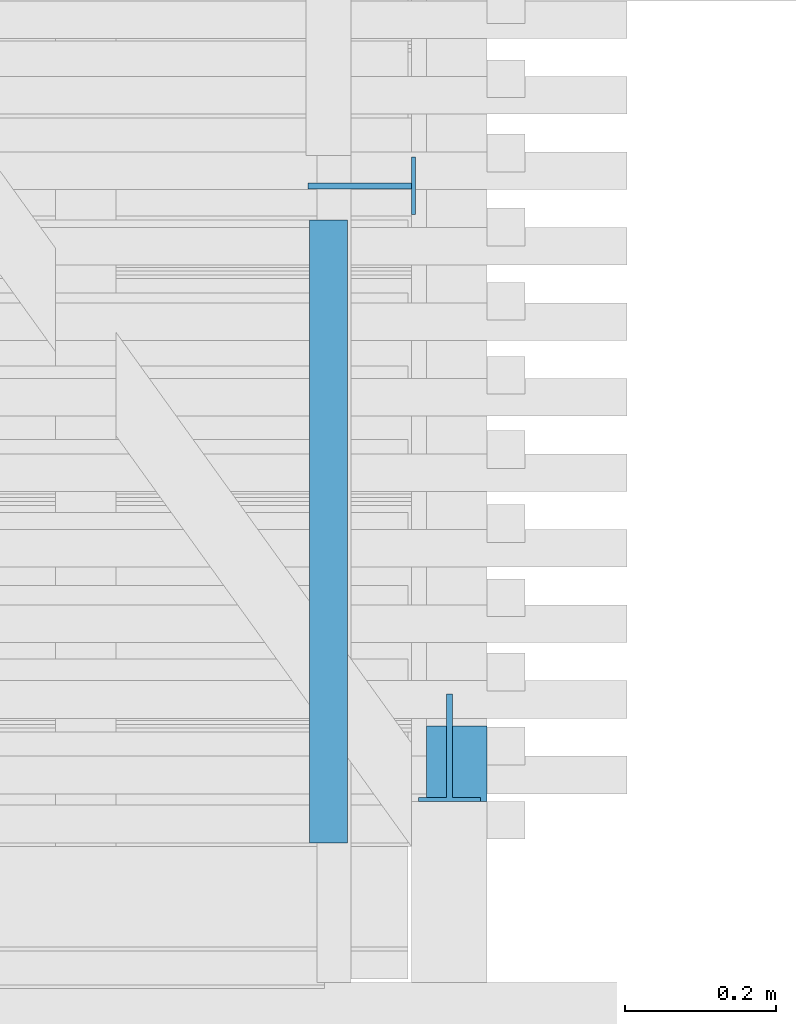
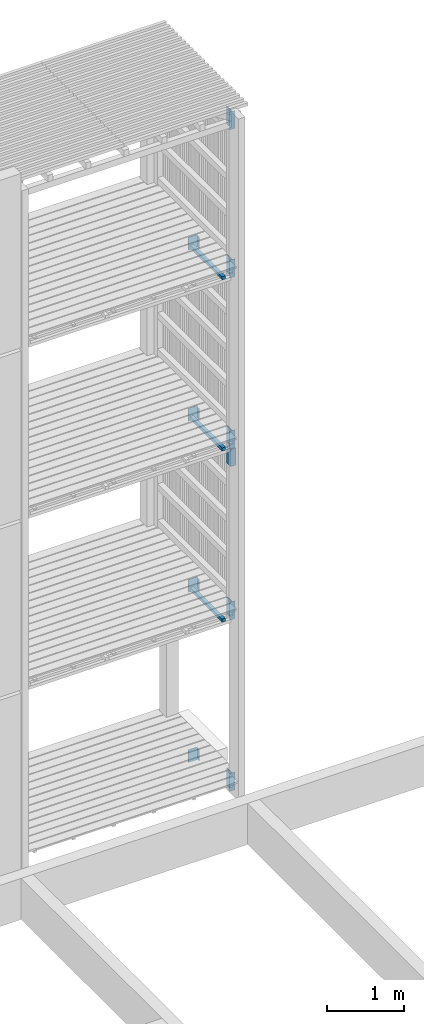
# One storey, part 176 of 182: 13 beams.
"""IFC2X3 building model written with IfcOpenShell, lengths in metres."""

import ifcopenshell
import ifcopenshell.guid

model = None  # the IFC model being written
_history = None  # IfcOwnerHistory: only IFC2X3 demands one
_inside = {}  # id of a spatial element -> (the spatial element, [elements in it])
_under = {}  # id of a project, library or spatial element -> (it, [spatial elements below it])
_declared = {}  # id of a project -> (the project, [libraries it declares])
_typed = {}  # id of a type object -> (the type object, [elements of that type])
_made_of = {}  # id of a material, layer set ... -> (it, [elements and type objects made of it])


def new_model(schema):
    """Start an empty IFC model of exactly this schema.

    Asked for "IFC4X3", IfcOpenShell would pick the latest addendum, in which some entities
    have other attributes; the version numbers below select the first issue.
    IFC2X3 requires an IfcOwnerHistory on every rooted entity: one is made here for all.
    """
    global model, _history
    if schema == "IFC4X3":
        model = ifcopenshell.file(schema_version=(4, 3, 0, 0))
    else:
        model = ifcopenshell.file(schema=schema)
    _inside.clear()
    _under.clear()
    _declared.clear()
    _typed.clear()
    _made_of.clear()
    _history = None
    if model.schema == "IFC2X3":
        org = make("IfcOrganization", Name="unknown")
        user = make(
            "IfcPersonAndOrganization",
            ThePerson=make("IfcPerson", FamilyName="unknown"),
            TheOrganization=org,
        )
        app = make(
            "IfcApplication",
            ApplicationDeveloper=org,
            Version="unknown",
            ApplicationFullName="unknown",
            ApplicationIdentifier="unknown",
        )
        _history = make(
            "IfcOwnerHistory",
            OwningUser=user,
            OwningApplication=app,
            ChangeAction="ADDED",
            CreationDate=0,
        )
    return model


def make(cls, **values):
    """One entity of the class cls with the attributes given. An attribute that is None is left unset."""
    return model.create_entity(
        cls, **{name: value for name, value in values.items() if value is not None}
    )


def rooted(cls, **values):
    """An entity with a GlobalId (a new one), such as an element, a storey or a relation."""
    return make(cls, GlobalId=ifcopenshell.guid.new(), OwnerHistory=_history, **values)


def si_unit(unit_type, name, prefix=None):
    """IfcSIUnit, for example si_unit("LENGTHUNIT", "METRE", prefix="MILLI")."""
    return make("IfcSIUnit", UnitType=unit_type, Prefix=prefix, Name=name)


def assignment(units):
    """IfcUnitAssignment: the units of a project."""
    return None if units is None else make("IfcUnitAssignment", Units=units)


def point(xyz):
    """IfcCartesianPoint."""
    return None if xyz is None else make("IfcCartesianPoint", Coordinates=xyz)


def direction(xyz):
    """IfcDirection."""
    return None if xyz is None else make("IfcDirection", DirectionRatios=xyz)


def frame(location, z_axis=None, x_axis=None):
    """IfcAxis2Placement3D, a coordinate frame: its origin and axes. An axis left out is left unset."""
    return make(
        "IfcAxis2Placement3D",
        Location=point(location),
        Axis=direction(z_axis),
        RefDirection=direction(x_axis),
    )


def origin():
    """The frame at (0, 0, 0) with its axes left unset."""
    return frame((0.0, 0.0, 0.0))


def place(relative_to, where):
    """IfcLocalPlacement: puts the frame where relative to a parent placement (None: the world)."""
    return make(
        "IfcLocalPlacement", PlacementRelTo=relative_to, RelativePlacement=where
    )


def context(
    kind, dimensions, precision=None, world=None, true_north=None, identifier=None
):
    """IfcGeometricRepresentationContext, for example the 3D "Model" context."""
    return make(
        "IfcGeometricRepresentationContext",
        ContextIdentifier=identifier,
        ContextType=kind,
        CoordinateSpaceDimension=dimensions,
        Precision=precision,
        WorldCoordinateSystem=world,
        TrueNorth=true_north,
    )


def project(units=None, contexts=None):
    """IfcProject with its units and contexts."""
    return rooted(
        "IfcProject",
        Name="project",
        RepresentationContexts=contexts,
        UnitsInContext=assignment(units),
    )


def spatial(cls, under=None, at=None, **own):
    """A site, building, storey or space (cls), placed at a placement, below another one or the project."""
    s = rooted(cls, ObjectPlacement=at, **own)
    if under is not None:
        _under.setdefault(under.id(), (under, []))[1].append(s)
    return s


def faces_of(points, faces, orient=None, outer=None):
    """IfcFace entities. A face is a list of loops; a loop is a list of indices into points, from 0.

    orient and outer hold one flag for each loop. By default every Orientation is true, the
    first loop of a face is its IfcFaceOuterBound and the others are IfcFaceBound.
    """
    made = []
    for i, loops in enumerate(faces):
        bounds = []
        for j, loop in enumerate(loops):
            is_outer = j == 0 if outer is None else outer[i][j]
            bounds.append(
                make(
                    "IfcFaceOuterBound" if is_outer else "IfcFaceBound",
                    Bound=make("IfcPolyLoop", Polygon=[points[k] for k in loop]),
                    Orientation=True if orient is None else orient[i][j],
                )
            )
        made.append(make("IfcFace", Bounds=bounds))
    return made


def faceted_brep(points, faces, orient=None, outer=None, voids=None):
    """IfcFacetedBrep: a solid bounded by flat faces; with voids (closed shells), ...WithVoids."""
    shared = [point(p) for p in points]
    hull = make("IfcClosedShell", CfsFaces=faces_of(shared, faces, orient, outer))
    if voids is None:
        return make("IfcFacetedBrep", Outer=hull)
    return make(
        "IfcFacetedBrepWithVoids",
        Outer=hull,
        Voids=[
            make(cls, CfsFaces=faces_of(shared, fs, o, b)) for cls, fs, o, b in voids
        ],
    )


def shape(context_of_items, identifier, shape_type, items):
    """IfcShapeRepresentation: the items that make up one representation, for example the "Body"."""
    return make(
        "IfcShapeRepresentation",
        ContextOfItems=context_of_items,
        RepresentationIdentifier=identifier,
        RepresentationType=shape_type,
        Items=items,
    )


def made_of(thing, what):
    """Note that an element or type object is made of a material, layer set ...; save() writes the relation."""
    if what is not None:
        _made_of.setdefault(what.id(), (what, []))[1].append(thing)
    return thing


def element(
    cls,
    number,
    at=None,
    inside=None,
    cuts=None,
    type_object=None,
    material=None,
    context=None,
    identifier="Body",
    shape_type=None,
    held_by="IfcProductDefinitionShape",
    body=None,
    shapes=None,
    **own,
):
    """One element of the class cls, such as IfcWall. Its Tag is "e" and its number.

    at: its placement. inside: the storey or other place that contains it. cuts: it is an
    opening in that element (IfcRelVoidsElement). A single representation is given by context,
    identifier, shape_type and body (its items); several are given by shapes. held_by: the class
    of the entity that holds the representations. save() writes the other relations.
    """
    e = rooted(cls, Tag="e%d" % number, ObjectPlacement=at, **own)
    if body is not None:
        shapes = [shape(context, identifier, shape_type, body)]
    if shapes is not None:
        e.Representation = make(held_by, Representations=shapes)
    if inside is not None:
        _inside.setdefault(inside.id(), (inside, []))[1].append(e)
    if cuts is not None:
        rooted(
            "IfcRelVoidsElement", RelatingBuildingElement=cuts, RelatedOpeningElement=e
        )
    if type_object is not None:
        _typed.setdefault(type_object.id(), (type_object, []))[1].append(e)
    return made_of(e, material)


def aggregate(whole, parts):
    """IfcRelAggregates: a whole, such as a stair, and the parts it consists of."""
    return rooted("IfcRelAggregates", RelatingObject=whole, RelatedObjects=parts)


def save(model, path):
    """Write the relations noted so far, then the file.

    IfcRelAggregates (storeys below a building ...), IfcRelContainedInSpatialStructure (elements
    in a storey), IfcRelDefinesByType, IfcRelAssociatesMaterial and IfcRelDeclares: one each for
    every whole, place, type object, material and project.
    """
    for whole, parts in _under.values():
        aggregate(whole, parts)
    for where, things in _inside.values():
        rooted(
            "IfcRelContainedInSpatialStructure",
            RelatedElements=things,
            RelatingStructure=where,
        )
    for kind, things in _typed.values():
        rooted("IfcRelDefinesByType", RelatedObjects=things, RelatingType=kind)
    for what, things in _made_of.values():
        rooted("IfcRelAssociatesMaterial", RelatedObjects=things, RelatingMaterial=what)
    for by, libraries in _declared.values():
        rooted("IfcRelDeclares", RelatingContext=by, RelatedDefinitions=libraries)
    model.write(path)


model = new_model("IFC2X3")

# Units and contexts
model_context = context("Model", 3, precision=1e-06, world=origin())
ifc_project = project(units=[si_unit("LENGTHUNIT", "METRE"), si_unit("PLANEANGLEUNIT", "RADIAN")], contexts=[model_context])

# Site, building, storey
site = spatial("IfcSite", under=ifc_project, CompositionType="ELEMENT")
building = spatial("IfcBuilding", under=site, CompositionType="ELEMENT")
storey = spatial("IfcBuildingStorey", under=building, Name="vs", CompositionType="ELEMENT", Elevation=-0.85)

# Beams
placement = place(None, origin())
beam_1_placement = place(placement, frame((56.26399999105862, 5.181077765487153, 5.279999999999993), z_axis=(0.0, 0.0, 1.0), x_axis=(1.0, 0.0, 0.0)))
element("IfcBeam", 1, at=beam_1_placement, inside=storey, Name="Contre-usinage", context=model_context, shape_type="Brep", body=[
    faceted_brep([(0.037000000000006, -0.065999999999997, -0.140000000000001), (0.037000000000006, 0.071, -0.140000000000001), (0.045000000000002, 0.071, -0.140000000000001), (0.045000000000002, -0.065999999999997, -0.140000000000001), (0.082000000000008, -0.066000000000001, -0.140000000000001), (0.082000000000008, -0.071, -0.140000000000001), (0.0, -0.071, -0.140000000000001), (0.0, -0.066000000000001, -0.140000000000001), (0.045000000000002, 0.071, -0.140000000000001), (0.037000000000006, 0.071, -0.140000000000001), (0.037000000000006, 0.071, 0.140000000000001), (0.045000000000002, 0.071, 0.140000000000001), (0.045000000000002, -0.066000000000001, 0.140000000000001), (0.045000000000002, -0.065999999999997, -0.140000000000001), (0.045000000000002, 0.071, -0.140000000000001), (0.045000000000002, 0.071, 0.140000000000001), (0.082000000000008, -0.066000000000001, -0.140000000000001), (0.045000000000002, -0.065999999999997, -0.140000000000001), (0.045000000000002, -0.066000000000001, 0.140000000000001), (0.082000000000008, -0.066000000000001, 0.140000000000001), (0.082000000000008, -0.071, -0.140000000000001), (0.082000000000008, -0.066000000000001, -0.140000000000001), (0.082000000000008, -0.066000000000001, 0.140000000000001), (0.082000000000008, -0.071, 0.140000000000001), (0.0, -0.071, -0.140000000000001), (0.082000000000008, -0.071, -0.140000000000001), (0.082000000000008, -0.071, 0.140000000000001), (0.0, -0.071, 0.140000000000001), (0.0, -0.066000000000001, -0.140000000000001), (0.0, -0.071, -0.140000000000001), (0.0, -0.071, 0.140000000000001), (0.0, -0.066000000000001, 0.140000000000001), (0.037000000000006, -0.065999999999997, -0.140000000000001), (0.0, -0.066000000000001, -0.140000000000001), (0.0, -0.066000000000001, 0.140000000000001), (0.037000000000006, -0.066000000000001, 0.140000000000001), (0.037000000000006, 0.071, 0.140000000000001), (0.037000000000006, 0.071, -0.140000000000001), (0.037000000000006, -0.065999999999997, -0.140000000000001), (0.037000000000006, -0.066000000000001, 0.140000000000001), (0.082000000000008, -0.066000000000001, 0.140000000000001), (0.045000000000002, -0.066000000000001, 0.140000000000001), (0.045000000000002, 0.071, 0.140000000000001), (0.037000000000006, 0.071, 0.140000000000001), (0.037000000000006, -0.066000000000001, 0.140000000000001), (0.0, -0.066000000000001, 0.140000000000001), (0.0, -0.071, 0.140000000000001), (0.082000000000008, -0.071, 0.140000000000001)], [[[0, 1, 2, 3, 4, 5, 6, 7]], [[8, 9, 10, 11]], [[12, 13, 14, 15]], [[16, 17, 18, 19]], [[20, 21, 22, 23]], [[24, 25, 26, 27]], [[28, 29, 30, 31]], [[32, 33, 34, 35]], [[36, 37, 38, 39]], [[40, 41, 42, 43, 44, 45, 46, 47]]]),
])
beam_2_placement = place(placement, frame((56.26399999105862, 5.181077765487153, -0.119999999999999), z_axis=(0.0, 0.0, 1.0), x_axis=(1.0, 0.0, 0.0)))
element("IfcBeam", 2, at=beam_2_placement, inside=storey, Name="Contre-usinage", context=model_context, shape_type="Brep", body=[
    faceted_brep([(0.037000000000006, -0.065999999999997, -0.14), (0.037000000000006, 0.071, -0.14), (0.045000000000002, 0.071, -0.14), (0.045000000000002, -0.065999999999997, -0.14), (0.082000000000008, -0.066000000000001, -0.14), (0.082000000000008, -0.071, -0.14), (0.0, -0.071, -0.14), (0.0, -0.066000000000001, -0.14), (0.045000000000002, 0.071, -0.14), (0.037000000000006, 0.071, -0.14), (0.037000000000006, 0.071, 0.14), (0.045000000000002, 0.071, 0.14), (0.045000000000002, -0.066000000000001, 0.14), (0.045000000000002, -0.065999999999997, -0.14), (0.045000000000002, 0.071, -0.14), (0.045000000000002, 0.071, 0.14), (0.082000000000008, -0.066000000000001, -0.14), (0.045000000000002, -0.065999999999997, -0.14), (0.045000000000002, -0.066000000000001, 0.14), (0.082000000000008, -0.066000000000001, 0.14), (0.082000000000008, -0.071, -0.14), (0.082000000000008, -0.066000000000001, -0.14), (0.082000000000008, -0.066000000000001, 0.14), (0.082000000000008, -0.071, 0.14), (0.0, -0.071, -0.14), (0.082000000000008, -0.071, -0.14), (0.082000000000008, -0.071, 0.14), (0.0, -0.071, 0.14), (0.0, -0.066000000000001, -0.14), (0.0, -0.071, -0.14), (0.0, -0.071, 0.14), (0.0, -0.066000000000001, 0.14), (0.037000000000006, -0.065999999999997, -0.14), (0.0, -0.066000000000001, -0.14), (0.0, -0.066000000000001, 0.14), (0.037000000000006, -0.066000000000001, 0.14), (0.037000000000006, 0.071, 0.14), (0.037000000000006, 0.071, -0.14), (0.037000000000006, -0.065999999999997, -0.14), (0.037000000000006, -0.066000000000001, 0.14), (0.082000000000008, -0.066000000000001, 0.14), (0.045000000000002, -0.066000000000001, 0.14), (0.045000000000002, 0.071, 0.14), (0.037000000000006, 0.071, 0.14), (0.037000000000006, -0.066000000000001, 0.14), (0.0, -0.066000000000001, 0.14), (0.0, -0.071, 0.14), (0.082000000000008, -0.071, 0.14)], [[[0, 1, 2, 3, 4, 5, 6, 7]], [[8, 9, 10, 11]], [[12, 13, 14, 15]], [[16, 17, 18, 19]], [[20, 21, 22, 23]], [[24, 25, 26, 27]], [[28, 29, 30, 31]], [[32, 33, 34, 35]], [[36, 37, 38, 39]], [[40, 41, 42, 43, 44, 45, 46, 47]]]),
])
beam_3_placement = place(placement, frame((56.18899999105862, 5.925077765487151, -0.243899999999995), z_axis=(-1.0, 0.0, 0.0), x_axis=(0.0, 0.0, 1.0)))
element("IfcBeam", 3, at=beam_3_placement, inside=storey, Name="Contre-usinage", context=model_context, shape_type="Brep", body=[
    faceted_brep([(0.2, 0.003999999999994, -0.065999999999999), (0.2, -0.004000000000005, -0.065999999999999), (0.175, -0.004000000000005, -0.065999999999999), (0.175, 0.003999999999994, -0.065999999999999), (0.0, 0.003999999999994, -0.065999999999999), (0.175, 0.003999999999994, -0.065999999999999), (0.175, 0.037999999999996, -0.065999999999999), (0.0, 0.037999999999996, -0.065999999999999), (0.0, -0.038000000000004, -0.065999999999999), (0.175, -0.038000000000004, -0.065999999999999), (0.175, -0.004000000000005, -0.065999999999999), (0.0, -0.004000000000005, -0.065999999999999), (0.0, -0.004000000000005, 0.071000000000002), (0.0, -0.004000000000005, -0.065999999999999), (0.175, -0.004000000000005, -0.065999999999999), (0.2, -0.004000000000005, -0.065999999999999), (0.2, -0.004000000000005, 0.071000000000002), (0.0, 0.003999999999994, 0.071000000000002), (0.0, -0.004000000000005, 0.071000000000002), (0.2, -0.004000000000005, 0.071000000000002), (0.2, 0.003999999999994, 0.071000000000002), (0.0, 0.037999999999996, -0.071000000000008), (0.175, 0.037999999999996, -0.071000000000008), (0.175, -0.038000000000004, -0.071000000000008), (0.0, -0.038000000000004, -0.071000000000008), (0.2, 0.003999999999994, 0.071000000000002), (0.2, -0.004000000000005, 0.071000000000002), (0.2, -0.004000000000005, -0.065999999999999), (0.2, 0.003999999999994, -0.065999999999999), (0.2, 0.003999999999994, -0.065999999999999), (0.175, 0.003999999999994, -0.065999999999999), (0.0, 0.003999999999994, -0.065999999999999), (0.0, 0.003999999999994, 0.071000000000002), (0.2, 0.003999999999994, 0.071000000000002), (0.175, -0.038000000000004, -0.071000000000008), (0.175, 0.037999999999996, -0.071000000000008), (0.175, 0.037999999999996, -0.065999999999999), (0.175, 0.003999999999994, -0.065999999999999), (0.175, -0.004000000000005, -0.065999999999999), (0.175, -0.038000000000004, -0.065999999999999), (0.0, 0.037999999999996, -0.071000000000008), (0.0, -0.038000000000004, -0.071000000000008), (0.0, -0.038000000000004, -0.065999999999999), (0.0, -0.004000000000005, -0.065999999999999), (0.0, -0.004000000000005, 0.071000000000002), (0.0, 0.003999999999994, 0.071000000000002), (0.0, 0.003999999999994, -0.065999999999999), (0.0, 0.037999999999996, -0.065999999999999), (0.0, 0.037999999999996, -0.071000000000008), (0.0, 0.037999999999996, -0.065999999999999), (0.175, 0.037999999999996, -0.065999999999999), (0.175, 0.037999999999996, -0.071000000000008), (0.0, -0.038000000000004, -0.065999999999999), (0.0, -0.038000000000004, -0.071000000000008), (0.175, -0.038000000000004, -0.071000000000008), (0.175, -0.038000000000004, -0.065999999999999)], [[[0, 1, 2, 3]], [[4, 5, 6, 7]], [[8, 9, 10, 11]], [[12, 13, 14, 15, 16]], [[17, 18, 19, 20]], [[21, 22, 23, 24]], [[25, 26, 27, 28]], [[29, 30, 31, 32, 33]], [[34, 35, 36, 37, 38, 39]], [[40, 41, 42, 43, 44, 45, 46, 47]], [[48, 49, 50, 51]], [[52, 53, 54, 55]]]),
])
beam_4_placement = place(placement, frame((56.14499999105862, 5.055077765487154, 5.217999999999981), z_axis=(0.0, 0.0, 1.0), x_axis=(0.0, 1.0, 0.0)))
element("IfcBeam", 4, at=beam_4_placement, inside=storey, Name="Calage", context=model_context, shape_type="Brep", body=[
    faceted_brep([(-1e-15, -0.025000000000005, 0.024999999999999), (0.824999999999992, -0.025000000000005, 0.024999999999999), (0.824999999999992, 0.024999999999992, 0.024999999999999), (-1e-15, 0.024999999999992, 0.024999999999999), (-1e-15, 0.024999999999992, 0.024999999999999), (0.824999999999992, 0.024999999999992, 0.024999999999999), (0.824999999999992, 0.024999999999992, -0.025), (-1e-15, 0.024999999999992, -0.025), (0.824999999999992, 0.024999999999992, 0.024999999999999), (0.824999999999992, -0.025000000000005, 0.024999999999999), (0.824999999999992, -0.025000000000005, -0.025), (0.824999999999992, 0.024999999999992, -0.025), (-1e-15, -0.025000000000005, -0.025), (0.824999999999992, -0.025000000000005, -0.025), (0.824999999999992, -0.025000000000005, 0.024999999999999), (-1e-15, -0.025000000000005, 0.024999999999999), (-1e-15, 0.024999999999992, -0.025), (0.824999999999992, 0.024999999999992, -0.025), (0.824999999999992, -0.025000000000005, -0.025), (-1e-15, -0.025000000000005, -0.025), (-1e-15, 0.024999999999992, 0.024999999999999), (-1e-15, 0.024999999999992, -0.025), (-1e-15, -0.025000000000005, -0.025), (-1e-15, -0.025000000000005, 0.024999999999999)], [[[0, 1, 2, 3]], [[4, 5, 6, 7]], [[8, 9, 10, 11]], [[12, 13, 14, 15]], [[16, 17, 18, 19]], [[20, 21, 22, 23]]]),
])
beam_5_placement = place(placement, frame((56.14499999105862, 5.055077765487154, 2.517999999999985), z_axis=(0.0, 0.0, 1.0), x_axis=(0.0, 1.0, 0.0)))
element("IfcBeam", 5, at=beam_5_placement, inside=storey, Name="Calage", context=model_context, shape_type="Brep", body=[
    faceted_brep([(-1e-15, -0.025000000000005, 0.025), (0.824999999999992, -0.025000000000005, 0.025), (0.824999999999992, 0.024999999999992, 0.025), (-1e-15, 0.024999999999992, 0.025), (-1e-15, 0.024999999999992, 0.025), (0.824999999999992, 0.024999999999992, 0.025), (0.824999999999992, 0.024999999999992, -0.025), (-1e-15, 0.024999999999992, -0.025), (0.824999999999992, 0.024999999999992, 0.025), (0.824999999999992, -0.025000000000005, 0.025), (0.824999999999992, -0.025000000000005, -0.025), (0.824999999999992, 0.024999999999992, -0.025), (-1e-15, -0.025000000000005, -0.025), (0.824999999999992, -0.025000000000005, -0.025), (0.824999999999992, -0.025000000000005, 0.025), (-1e-15, -0.025000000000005, 0.025), (-1e-15, 0.024999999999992, -0.025), (0.824999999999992, 0.024999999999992, -0.025), (0.824999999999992, -0.025000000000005, -0.025), (-1e-15, -0.025000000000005, -0.025), (-1e-15, 0.024999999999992, 0.025), (-1e-15, 0.024999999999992, -0.025), (-1e-15, -0.025000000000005, -0.025), (-1e-15, -0.025000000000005, 0.025)], [[[0, 1, 2, 3]], [[4, 5, 6, 7]], [[8, 9, 10, 11]], [[12, 13, 14, 15]], [[16, 17, 18, 19]], [[20, 21, 22, 23]]]),
])
beam_6_placement = place(placement, frame((56.18899999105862, 5.925077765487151, 2.439999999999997), z_axis=(-1.0, 0.0, 0.0), x_axis=(0.0, 0.0, 1.0)))
element("IfcBeam", 6, at=beam_6_placement, inside=storey, Name="Contre-usinage", context=model_context, shape_type="Brep", body=[
    faceted_brep([(0.2, 0.003999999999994, -0.065999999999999), (0.2, -0.004000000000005, -0.065999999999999), (0.175, -0.004000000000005, -0.065999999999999), (0.175, 0.003999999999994, -0.065999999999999), (0.0, 0.003999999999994, -0.065999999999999), (0.175, 0.003999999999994, -0.065999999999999), (0.175, 0.037999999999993, -0.065999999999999), (0.0, 0.037999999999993, -0.065999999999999), (0.0, -0.038000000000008, -0.065999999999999), (0.175, -0.038000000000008, -0.065999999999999), (0.175, -0.004000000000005, -0.065999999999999), (0.0, -0.004000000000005, -0.065999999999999), (0.0, -0.004000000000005, 0.071000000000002), (0.0, -0.004000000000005, -0.065999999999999), (0.175, -0.004000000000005, -0.065999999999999), (0.2, -0.004000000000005, -0.065999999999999), (0.2, -0.004000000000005, 0.071000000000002), (0.0, 0.003999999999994, 0.071000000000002), (0.0, -0.004000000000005, 0.071000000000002), (0.2, -0.004000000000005, 0.071000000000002), (0.2, 0.003999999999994, 0.071000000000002), (0.0, 0.037999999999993, -0.070999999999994), (0.175, 0.037999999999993, -0.070999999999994), (0.175, -0.038000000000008, -0.070999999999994), (0.0, -0.038000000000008, -0.070999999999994), (0.175, -0.038000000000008, -0.070999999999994), (0.175, 0.037999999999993, -0.070999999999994), (0.175, 0.037999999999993, -0.065999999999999), (0.175, 0.003999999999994, -0.065999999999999), (0.175, -0.004000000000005, -0.065999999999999), (0.175, -0.038000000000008, -0.065999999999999), (0.2, 0.003999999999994, -0.065999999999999), (0.175, 0.003999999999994, -0.065999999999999), (0.0, 0.003999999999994, -0.065999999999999), (0.0, 0.003999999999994, 0.071000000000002), (0.2, 0.003999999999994, 0.071000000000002), (0.2, 0.003999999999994, 0.071000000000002), (0.2, -0.004000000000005, 0.071000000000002), (0.2, -0.004000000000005, -0.065999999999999), (0.2, 0.003999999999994, -0.065999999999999), (0.0, 0.037999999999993, -0.065999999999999), (0.175, 0.037999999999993, -0.065999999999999), (0.175, 0.037999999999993, -0.070999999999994), (0.0, 0.037999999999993, -0.070999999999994), (0.0, 0.037999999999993, -0.070999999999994), (0.0, -0.038000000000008, -0.070999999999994), (0.0, -0.038000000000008, -0.065999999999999), (0.0, -0.004000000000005, -0.065999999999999), (0.0, -0.004000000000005, 0.071000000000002), (0.0, 0.003999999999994, 0.071000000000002), (0.0, 0.003999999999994, -0.065999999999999), (0.0, 0.037999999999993, -0.065999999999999), (0.0, -0.038000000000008, -0.065999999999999), (0.0, -0.038000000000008, -0.070999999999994), (0.175, -0.038000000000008, -0.070999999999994), (0.175, -0.038000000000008, -0.065999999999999)], [[[0, 1, 2, 3]], [[4, 5, 6, 7]], [[8, 9, 10, 11]], [[12, 13, 14, 15, 16]], [[17, 18, 19, 20]], [[21, 22, 23, 24]], [[25, 26, 27, 28, 29, 30]], [[31, 32, 33, 34, 35]], [[36, 37, 38, 39]], [[40, 41, 42, 43]], [[44, 45, 46, 47, 48, 49, 50, 51]], [[52, 53, 54, 55]]]),
])
beam_7_placement = place(placement, frame((56.18899999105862, 5.925077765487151, 7.839999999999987), z_axis=(-1.0, 0.0, 0.0), x_axis=(0.0, 0.0, 1.0)))
element("IfcBeam", 7, at=beam_7_placement, inside=storey, Name="Contre-usinage", context=model_context, shape_type="Brep", body=[
    faceted_brep([(0.200000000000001, 0.003999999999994, -0.065999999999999), (0.200000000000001, -0.004000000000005, -0.065999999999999), (0.175000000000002, -0.004000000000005, -0.065999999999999), (0.175000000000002, 0.003999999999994, -0.065999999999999), (2e-15, 0.003999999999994, -0.065999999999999), (0.175000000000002, 0.003999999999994, -0.065999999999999), (0.175000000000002, 0.037999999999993, -0.065999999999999), (2e-15, 0.037999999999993, -0.065999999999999), (2e-15, -0.038000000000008, -0.065999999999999), (0.175000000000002, -0.038000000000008, -0.065999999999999), (0.175000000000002, -0.004000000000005, -0.065999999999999), (2e-15, -0.004000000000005, -0.065999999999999), (2e-15, -0.004000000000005, 0.071000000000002), (2e-15, -0.004000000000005, -0.065999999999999), (0.175000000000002, -0.004000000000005, -0.065999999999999), (0.200000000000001, -0.004000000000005, -0.065999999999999), (0.200000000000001, -0.004000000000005, 0.071000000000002), (2e-15, 0.003999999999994, 0.071000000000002), (2e-15, -0.004000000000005, 0.071000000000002), (0.200000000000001, -0.004000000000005, 0.071000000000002), (0.200000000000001, 0.003999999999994, 0.071000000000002), (2e-15, 0.037999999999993, -0.071000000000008), (0.175000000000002, 0.037999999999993, -0.071000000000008), (0.175000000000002, -0.038000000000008, -0.071000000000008), (2e-15, -0.038000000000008, -0.071000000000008), (0.175000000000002, -0.038000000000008, -0.071000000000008), (0.175000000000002, 0.037999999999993, -0.071000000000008), (0.175000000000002, 0.037999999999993, -0.065999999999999), (0.175000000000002, 0.003999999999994, -0.065999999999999), (0.175000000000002, -0.004000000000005, -0.065999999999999), (0.175000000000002, -0.038000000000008, -0.065999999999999), (0.200000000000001, 0.003999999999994, -0.065999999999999), (0.175000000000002, 0.003999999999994, -0.065999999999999), (2e-15, 0.003999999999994, -0.065999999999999), (2e-15, 0.003999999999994, 0.071000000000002), (0.200000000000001, 0.003999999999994, 0.071000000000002), (0.200000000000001, 0.003999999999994, 0.071000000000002), (0.200000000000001, -0.004000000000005, 0.071000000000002), (0.200000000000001, -0.004000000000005, -0.065999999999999), (0.200000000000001, 0.003999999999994, -0.065999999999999), (2e-15, 0.037999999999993, -0.065999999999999), (0.175000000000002, 0.037999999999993, -0.065999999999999), (0.175000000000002, 0.037999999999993, -0.071000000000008), (2e-15, 0.037999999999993, -0.071000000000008), (2e-15, 0.037999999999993, -0.071000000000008), (2e-15, -0.038000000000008, -0.071000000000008), (2e-15, -0.038000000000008, -0.065999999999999), (2e-15, -0.004000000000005, -0.065999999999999), (2e-15, -0.004000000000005, 0.071000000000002), (2e-15, 0.003999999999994, 0.071000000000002), (2e-15, 0.003999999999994, -0.065999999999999), (2e-15, 0.037999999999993, -0.065999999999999), (2e-15, -0.038000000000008, -0.065999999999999), (2e-15, -0.038000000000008, -0.071000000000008), (0.175000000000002, -0.038000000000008, -0.071000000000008), (0.175000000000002, -0.038000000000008, -0.065999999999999)], [[[0, 1, 2, 3]], [[4, 5, 6, 7]], [[8, 9, 10, 11]], [[12, 13, 14, 15, 16]], [[17, 18, 19, 20]], [[21, 22, 23, 24]], [[25, 26, 27, 28, 29, 30]], [[31, 32, 33, 34, 35]], [[36, 37, 38, 39]], [[40, 41, 42, 43]], [[44, 45, 46, 47, 48, 49, 50, 51]], [[52, 53, 54, 55]]]),
])
beam_8_placement = place(placement, frame((56.314999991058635, 5.160077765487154, 4.85796194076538), z_axis=(0.0, 1.0, 0.0), x_axis=(0.0, 0.0, 1.0)))
element("IfcBeam", 8, at=beam_8_placement, inside=storey, Name="Support bardage", context=model_context, shape_type="Brep", body=[
    faceted_brep([(0.267038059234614, 0.039999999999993, -0.050000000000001), (0.267038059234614, 0.039999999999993, 0.05), (0.267038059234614, -0.04000000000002, 0.05), (0.267038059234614, -0.04000000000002, -0.050000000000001), (0.267038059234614, 0.039999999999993, -0.050000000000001), (0.267038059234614, -0.04000000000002, -0.050000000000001), (0.0, -0.04000000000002, -0.050000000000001), (0.0, 0.039999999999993, -0.050000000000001), (0.267038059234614, 0.039999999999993, 0.05), (0.267038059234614, 0.039999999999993, -0.050000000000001), (0.0, 0.039999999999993, -0.050000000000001), (0.0, 0.039999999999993, 0.05), (0.0, -0.04000000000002, -0.050000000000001), (0.267038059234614, -0.04000000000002, -0.050000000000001), (0.267038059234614, -0.04000000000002, 0.05), (0.0, -0.04000000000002, 0.05), (0.0, -0.04000000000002, 0.05), (0.267038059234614, -0.04000000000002, 0.05), (0.267038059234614, 0.039999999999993, 0.05), (0.0, 0.039999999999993, 0.05), (0.0, -0.04000000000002, -0.050000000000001), (0.0, -0.04000000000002, 0.05), (0.0, 0.039999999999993, 0.05), (0.0, 0.039999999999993, -0.050000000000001)], [[[0, 1, 2, 3]], [[4, 5, 6, 7]], [[8, 9, 10, 11]], [[12, 13, 14, 15]], [[16, 17, 18, 19]], [[20, 21, 22, 23]]]),
])
beam_9_placement = place(placement, frame((56.14499999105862, 5.055077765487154, 7.917999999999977), z_axis=(0.0, 0.0, 1.0), x_axis=(1.8e-14, 1.0, 0.0)))
element("IfcBeam", 9, at=beam_9_placement, inside=storey, Name="Calage", context=model_context, shape_type="Brep", body=[
    faceted_brep([(0.0, -0.025000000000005, 0.024999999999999), (0.824999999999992, -0.02499999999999, 0.024999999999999), (0.824999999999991, 0.025000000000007, 0.024999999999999), (-1e-15, 0.024999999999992, 0.024999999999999), (-1e-15, 0.024999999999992, 0.024999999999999), (0.824999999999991, 0.025000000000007, 0.024999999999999), (0.824999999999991, 0.025000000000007, -0.025), (-1e-15, 0.024999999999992, -0.025), (0.824999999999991, 0.025000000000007, 0.024999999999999), (0.824999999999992, -0.02499999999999, 0.024999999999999), (0.824999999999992, -0.02499999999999, -0.025), (0.824999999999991, 0.025000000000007, -0.025), (0.0, -0.025000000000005, -0.025), (0.824999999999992, -0.02499999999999, -0.025), (0.824999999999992, -0.02499999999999, 0.024999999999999), (0.0, -0.025000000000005, 0.024999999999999), (-1e-15, 0.024999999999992, -0.025), (0.824999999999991, 0.025000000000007, -0.025), (0.824999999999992, -0.02499999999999, -0.025), (0.0, -0.025000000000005, -0.025), (-1e-15, 0.024999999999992, 0.024999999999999), (-1e-15, 0.024999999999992, -0.025), (0.0, -0.025000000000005, -0.025), (0.0, -0.025000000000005, 0.024999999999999)], [[[0, 1, 2, 3]], [[4, 5, 6, 7]], [[8, 9, 10, 11]], [[12, 13, 14, 15]], [[16, 17, 18, 19]], [[20, 21, 22, 23]]]),
])
beam_10_placement = place(placement, frame((56.26399999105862, 5.181077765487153, 10.314999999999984), z_axis=(0.0, 0.0, 1.0), x_axis=(1.0, 0.0, 0.0)))
element("IfcBeam", 10, at=beam_10_placement, inside=storey, Name="Contre-usinage", context=model_context, shape_type="Brep", body=[
    faceted_brep([(0.037000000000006, -0.065999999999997, -0.140000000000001), (0.037000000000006, 0.071, -0.140000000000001), (0.045000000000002, 0.071, -0.140000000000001), (0.045000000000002, -0.065999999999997, -0.140000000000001), (0.082000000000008, -0.066000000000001, -0.140000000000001), (0.082000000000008, -0.071, -0.140000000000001), (0.0, -0.071, -0.140000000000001), (0.0, -0.066000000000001, -0.140000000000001), (0.045000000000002, 0.071, -0.140000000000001), (0.037000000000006, 0.071, -0.140000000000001), (0.037000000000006, 0.071, 0.140000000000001), (0.045000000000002, 0.071, 0.140000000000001), (0.045000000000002, -0.066000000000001, 0.140000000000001), (0.045000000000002, -0.065999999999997, -0.140000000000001), (0.045000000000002, 0.071, -0.140000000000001), (0.045000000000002, 0.071, 0.140000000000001), (0.082000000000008, -0.066000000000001, -0.140000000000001), (0.045000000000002, -0.065999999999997, -0.140000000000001), (0.045000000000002, -0.066000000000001, 0.140000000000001), (0.082000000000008, -0.066000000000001, 0.140000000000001), (0.082000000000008, -0.071, -0.140000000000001), (0.082000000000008, -0.066000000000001, -0.140000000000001), (0.082000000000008, -0.066000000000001, 0.140000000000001), (0.082000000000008, -0.071, 0.140000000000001), (0.0, -0.071, -0.140000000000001), (0.082000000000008, -0.071, -0.140000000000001), (0.082000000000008, -0.071, 0.140000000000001), (0.0, -0.071, 0.140000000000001), (0.0, -0.066000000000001, -0.140000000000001), (0.0, -0.071, -0.140000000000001), (0.0, -0.071, 0.140000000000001), (0.0, -0.066000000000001, 0.140000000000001), (0.037000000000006, -0.065999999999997, -0.140000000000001), (0.0, -0.066000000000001, -0.140000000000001), (0.0, -0.066000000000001, 0.140000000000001), (0.037000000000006, -0.066000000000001, 0.140000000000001), (0.037000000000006, 0.071, 0.140000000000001), (0.037000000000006, 0.071, -0.140000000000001), (0.037000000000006, -0.065999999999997, -0.140000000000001), (0.037000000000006, -0.066000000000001, 0.140000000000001), (0.082000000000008, -0.066000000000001, 0.140000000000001), (0.045000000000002, -0.066000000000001, 0.140000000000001), (0.045000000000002, 0.071, 0.140000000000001), (0.037000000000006, 0.071, 0.140000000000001), (0.037000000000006, -0.066000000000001, 0.140000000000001), (0.0, -0.066000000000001, 0.140000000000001), (0.0, -0.071, 0.140000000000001), (0.082000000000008, -0.071, 0.140000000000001)], [[[0, 1, 2, 3, 4, 5, 6, 7]], [[8, 9, 10, 11]], [[12, 13, 14, 15]], [[16, 17, 18, 19]], [[20, 21, 22, 23]], [[24, 25, 26, 27]], [[28, 29, 30, 31]], [[32, 33, 34, 35]], [[36, 37, 38, 39]], [[40, 41, 42, 43, 44, 45, 46, 47]]]),
])
beam_11_placement = place(placement, frame((56.18899999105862, 5.925077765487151, 5.139999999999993), z_axis=(-1.0, 0.0, 0.0), x_axis=(0.0, 0.0, 1.0)))
element("IfcBeam", 11, at=beam_11_placement, inside=storey, Name="Contre-usinage", context=model_context, shape_type="Brep", body=[
    faceted_brep([(0.2, 0.003999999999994, -0.065999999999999), (0.2, -0.004000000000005, -0.065999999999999), (0.174999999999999, -0.004000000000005, -0.065999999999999), (0.174999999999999, 0.003999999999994, -0.065999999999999), (0.0, 0.003999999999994, -0.065999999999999), (0.174999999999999, 0.003999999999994, -0.065999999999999), (0.174999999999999, 0.037999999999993, -0.065999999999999), (0.0, 0.037999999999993, -0.065999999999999), (0.0, -0.038000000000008, -0.065999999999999), (0.174999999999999, -0.038000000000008, -0.065999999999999), (0.174999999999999, -0.004000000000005, -0.065999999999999), (0.0, -0.004000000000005, -0.065999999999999), (0.0, -0.004000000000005, 0.071000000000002), (0.0, -0.004000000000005, -0.065999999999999), (0.174999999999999, -0.004000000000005, -0.065999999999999), (0.2, -0.004000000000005, -0.065999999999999), (0.2, -0.004000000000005, 0.071000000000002), (0.0, 0.003999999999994, 0.071000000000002), (0.0, -0.004000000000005, 0.071000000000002), (0.2, -0.004000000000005, 0.071000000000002), (0.2, 0.003999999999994, 0.071000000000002), (0.0, 0.037999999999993, -0.070999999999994), (0.174999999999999, 0.037999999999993, -0.070999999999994), (0.174999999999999, -0.038000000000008, -0.070999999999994), (0.0, -0.038000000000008, -0.070999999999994), (0.174999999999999, -0.038000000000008, -0.070999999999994), (0.174999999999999, 0.037999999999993, -0.070999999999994), (0.174999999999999, 0.037999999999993, -0.065999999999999), (0.174999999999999, 0.003999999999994, -0.065999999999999), (0.174999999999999, -0.004000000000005, -0.065999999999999), (0.174999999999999, -0.038000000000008, -0.065999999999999), (0.2, 0.003999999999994, -0.065999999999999), (0.174999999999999, 0.003999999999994, -0.065999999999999), (0.0, 0.003999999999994, -0.065999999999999), (0.0, 0.003999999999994, 0.071000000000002), (0.2, 0.003999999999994, 0.071000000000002), (0.2, 0.003999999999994, 0.071000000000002), (0.2, -0.004000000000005, 0.071000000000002), (0.2, -0.004000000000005, -0.065999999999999), (0.2, 0.003999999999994, -0.065999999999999), (0.0, 0.037999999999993, -0.065999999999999), (0.174999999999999, 0.037999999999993, -0.065999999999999), (0.174999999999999, 0.037999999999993, -0.070999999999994), (0.0, 0.037999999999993, -0.070999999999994), (0.0, 0.037999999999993, -0.070999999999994), (0.0, -0.038000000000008, -0.070999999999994), (0.0, -0.038000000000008, -0.065999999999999), (0.0, -0.004000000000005, -0.065999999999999), (0.0, -0.004000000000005, 0.071000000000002), (0.0, 0.003999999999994, 0.071000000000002), (0.0, 0.003999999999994, -0.065999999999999), (0.0, 0.037999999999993, -0.065999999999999), (0.0, -0.038000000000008, -0.065999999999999), (0.0, -0.038000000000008, -0.070999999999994), (0.174999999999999, -0.038000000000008, -0.070999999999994), (0.174999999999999, -0.038000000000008, -0.065999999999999)], [[[0, 1, 2, 3]], [[4, 5, 6, 7]], [[8, 9, 10, 11]], [[12, 13, 14, 15, 16]], [[17, 18, 19, 20]], [[21, 22, 23, 24]], [[25, 26, 27, 28, 29, 30]], [[31, 32, 33, 34, 35]], [[36, 37, 38, 39]], [[40, 41, 42, 43]], [[44, 45, 46, 47, 48, 49, 50, 51]], [[52, 53, 54, 55]]]),
])
beam_12_placement = place(placement, frame((56.26399999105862, 5.181077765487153, 7.979999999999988), z_axis=(0.0, 0.0, 1.0), x_axis=(1.0, 0.0, 0.0)))
element("IfcBeam", 12, at=beam_12_placement, inside=storey, Name="Contre-usinage", context=model_context, shape_type="Brep", body=[
    faceted_brep([(0.037000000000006, -0.065999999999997, -0.14), (0.037000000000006, 0.071, -0.14), (0.045000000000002, 0.071, -0.14), (0.045000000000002, -0.065999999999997, -0.14), (0.082000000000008, -0.066000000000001, -0.14), (0.082000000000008, -0.071, -0.14), (0.0, -0.071, -0.14), (0.0, -0.066000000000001, -0.14), (0.045000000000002, 0.071, -0.14), (0.037000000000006, 0.071, -0.14), (0.037000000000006, 0.071, 0.140000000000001), (0.045000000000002, 0.071, 0.140000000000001), (0.045000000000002, -0.066000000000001, 0.140000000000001), (0.045000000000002, -0.065999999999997, -0.14), (0.045000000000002, 0.071, -0.14), (0.045000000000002, 0.071, 0.140000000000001), (0.082000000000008, -0.066000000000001, -0.14), (0.045000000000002, -0.065999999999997, -0.14), (0.045000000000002, -0.066000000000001, 0.140000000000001), (0.082000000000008, -0.066000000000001, 0.140000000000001), (0.082000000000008, -0.071, -0.14), (0.082000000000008, -0.066000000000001, -0.14), (0.082000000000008, -0.066000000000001, 0.140000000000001), (0.082000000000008, -0.071, 0.140000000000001), (0.0, -0.071, -0.14), (0.082000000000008, -0.071, -0.14), (0.082000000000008, -0.071, 0.140000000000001), (0.0, -0.071, 0.140000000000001), (0.0, -0.066000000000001, -0.14), (0.0, -0.071, -0.14), (0.0, -0.071, 0.140000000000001), (0.0, -0.066000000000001, 0.140000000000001), (0.037000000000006, -0.065999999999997, -0.14), (0.0, -0.066000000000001, -0.14), (0.0, -0.066000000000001, 0.140000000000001), (0.037000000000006, -0.066000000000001, 0.140000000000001), (0.037000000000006, 0.071, 0.140000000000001), (0.037000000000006, 0.071, -0.14), (0.037000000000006, -0.065999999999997, -0.14), (0.037000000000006, -0.066000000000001, 0.140000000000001), (0.082000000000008, -0.066000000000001, 0.140000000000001), (0.045000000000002, -0.066000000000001, 0.140000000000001), (0.045000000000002, 0.071, 0.140000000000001), (0.037000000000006, 0.071, 0.140000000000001), (0.037000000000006, -0.066000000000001, 0.140000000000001), (0.0, -0.066000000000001, 0.140000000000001), (0.0, -0.071, 0.140000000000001), (0.082000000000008, -0.071, 0.140000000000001)], [[[0, 1, 2, 3, 4, 5, 6, 7]], [[8, 9, 10, 11]], [[12, 13, 14, 15]], [[16, 17, 18, 19]], [[20, 21, 22, 23]], [[24, 25, 26, 27]], [[28, 29, 30, 31]], [[32, 33, 34, 35]], [[36, 37, 38, 39]], [[40, 41, 42, 43, 44, 45, 46, 47]]]),
])
beam_13_placement = place(placement, frame((56.26399999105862, 5.181077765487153, 2.579999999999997), z_axis=(0.0, 0.0, 1.0), x_axis=(1.0, 0.0, 0.0)))
element("IfcBeam", 13, at=beam_13_placement, inside=storey, Name="Contre-usinage", context=model_context, shape_type="Brep", body=[
    faceted_brep([(0.037000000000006, -0.065999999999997, -0.14), (0.037000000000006, 0.071, -0.14), (0.045000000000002, 0.071, -0.14), (0.045000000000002, -0.065999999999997, -0.14), (0.082000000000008, -0.066000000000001, -0.14), (0.082000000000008, -0.071, -0.14), (0.0, -0.071, -0.14), (0.0, -0.066000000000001, -0.14), (0.045000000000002, 0.071, -0.14), (0.037000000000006, 0.071, -0.14), (0.037000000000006, 0.071, 0.14), (0.045000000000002, 0.071, 0.14), (0.045000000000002, -0.066000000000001, 0.14), (0.045000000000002, -0.065999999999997, -0.14), (0.045000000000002, 0.071, -0.14), (0.045000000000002, 0.071, 0.14), (0.082000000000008, -0.066000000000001, -0.14), (0.045000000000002, -0.065999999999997, -0.14), (0.045000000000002, -0.066000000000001, 0.14), (0.082000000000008, -0.066000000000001, 0.14), (0.082000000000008, -0.071, -0.14), (0.082000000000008, -0.066000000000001, -0.14), (0.082000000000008, -0.066000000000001, 0.14), (0.082000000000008, -0.071, 0.14), (0.0, -0.071, -0.14), (0.082000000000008, -0.071, -0.14), (0.082000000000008, -0.071, 0.14), (0.0, -0.071, 0.14), (0.0, -0.066000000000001, -0.14), (0.0, -0.071, -0.14), (0.0, -0.071, 0.14), (0.0, -0.066000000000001, 0.14), (0.037000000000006, -0.065999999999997, -0.14), (0.0, -0.066000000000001, -0.14), (0.0, -0.066000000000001, 0.14), (0.037000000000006, -0.066000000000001, 0.14), (0.037000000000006, 0.071, 0.14), (0.037000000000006, 0.071, -0.14), (0.037000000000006, -0.065999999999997, -0.14), (0.037000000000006, -0.066000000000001, 0.14), (0.082000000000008, -0.066000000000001, 0.14), (0.045000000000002, -0.066000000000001, 0.14), (0.045000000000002, 0.071, 0.14), (0.037000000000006, 0.071, 0.14), (0.037000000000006, -0.066000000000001, 0.14), (0.0, -0.066000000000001, 0.14), (0.0, -0.071, 0.14), (0.082000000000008, -0.071, 0.14)], [[[0, 1, 2, 3, 4, 5, 6, 7]], [[8, 9, 10, 11]], [[12, 13, 14, 15]], [[16, 17, 18, 19]], [[20, 21, 22, 23]], [[24, 25, 26, 27]], [[28, 29, 30, 31]], [[32, 33, 34, 35]], [[36, 37, 38, 39]], [[40, 41, 42, 43, 44, 45, 46, 47]]]),
])

save(model, "model.ifc")
